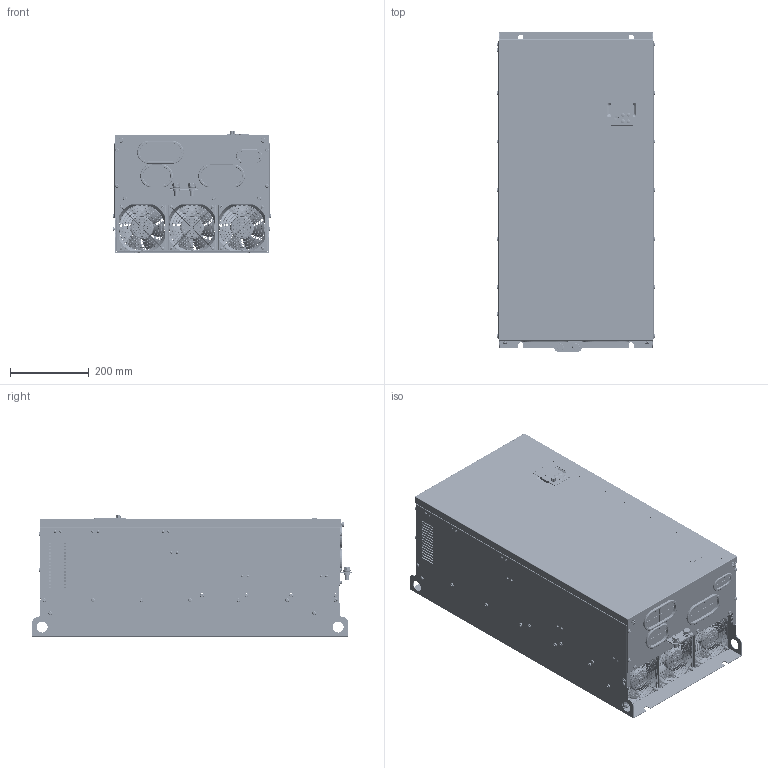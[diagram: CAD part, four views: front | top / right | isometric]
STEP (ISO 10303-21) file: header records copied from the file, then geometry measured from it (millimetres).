
FILE_DESCRIPTION((''),'2;1');
FILE_NAME('AD80-S7-DRIVE_ASSY_ASM','2025-11-24T19:21:55',('wendong.luo'),(''),'CREO PARAMETRIC BY PTC INC, 2024374','CREO PARAMETRIC BY PTC INC, 2024374','');
FILE_SCHEMA(('CONFIG_CONTROL_DESIGN','GEOMETRIC_VALIDATION_PROPERTIES_MIM'));
Products named in the file (57): AD80-S7-MECHANICAL-PART; SET410-E; M0202034; RIVETING-NUT-4_; EM-S-M10-ZC; M10-25; M10-SPRING_FLAT; M10-WASHER; M0202036_ASM; M12-25; M0202068; M0202067; M0202037_ASM; M0202007; M0202009; PEM-BSO-M4-10; M0100015; P_FHS_5_10; M0202013; M0202003; M0204027; M0204023; M0204033; M4-MOUNTING-SCREW; M0202090; S7-FASTEN_ASM; M0203190; E0100880; E0400088; E0300008; SMM0207; E0400085; E0400023; E0400008; E0300003; E0400009; E0400035; E0100880_ASM; 25898; 35188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
Assembly tree (207 placements, depth 4):
  AD80-S7-DRIVE_ASSY_ASM
    AD80-S7-MECHANICAL-PART
    SET410-E  x8
    S7-FASTEN_ASM
      M0202034  x37
      RIVETING-NUT-4_  x24
      EM-S-M10-ZC  x2
      M0202036_ASM  x2
        M10-25
        M10-SPRING_FLAT
        M10-WASHER
      M0202037_ASM  x8
        M12-25
        M0202068
        M0202067
      M0202007  x20
      M0202009  x16
      PEM-BSO-M4-10  x4
      M0100015  x2
      P_FHS_5_10  x3
      M0202013  x3
      M0202003  x8
      M0204027  x2
      M0204023
      M0204033  x2
      M4-MOUNTING-SCREW  x2
      M0202090  x12
    M0203190
    E0100880_ASM
      E0100880
      E0400088
      E0300008
      SMM0207  x3
      E0400085  x2
      E0400023
      E0400008
      E0300003
      E0400009  x2
      E0400035
    FAN12038_ASM  x3
      25898
      35188
    M0200009  x3
    KP11_ASM
      E0100867_ASM
        E0100867
        E0400170
        E0400000  x6
        E0400169
        E0300012
        E0200192
        E0200191
      M0203255
      KP10-MECHANICAL-PART
    M0100274_ASM
      M0100274
    M0203053
Bounding box: 400.4 x 809.5 x 308.6 mm (x, y, z)
Volume: 4179777.5 mm3; surface area: 4283052.5 mm2
Topology: 371 solids, 490 shells, 32144 faces, 82979 edges, 52603 vertices
Faces by surface type: plane 15281, cylinder 8160, bspline 3979, torus 1618, extrusion 1415, cone 1259, sphere 432
Entity records: 705767 total; most frequent: CARTESIAN_POINT 193663, ORIENTED_EDGE 81760, DIRECTION 70311, EDGE_CURVE 41100, PRESENTATION_STYLE_ASSIGNMENT 32750, STYLED_ITEM 29608, CURVE_STYLE 28314, VECTOR 26517
